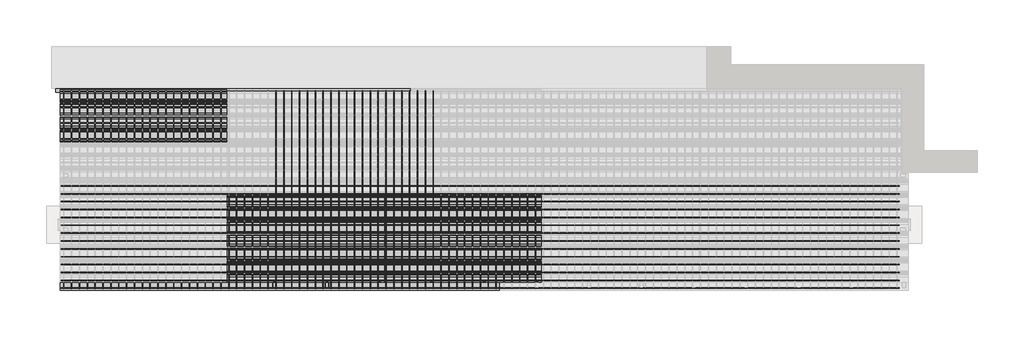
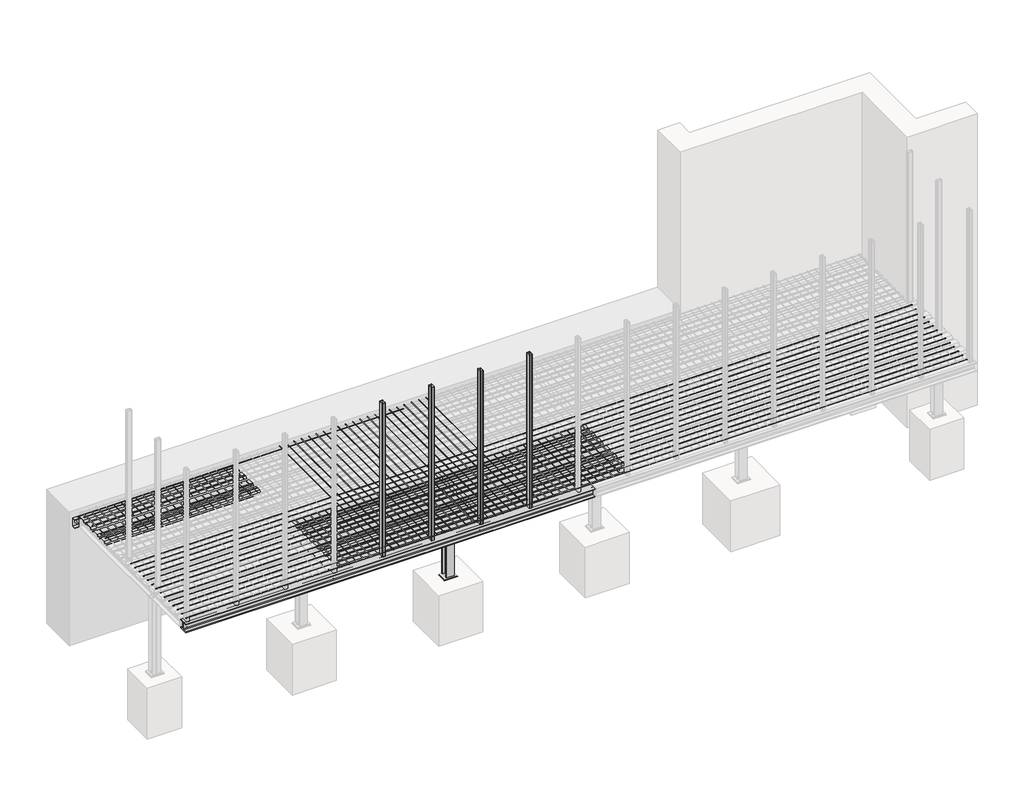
# One storey, part 2 of 36: 45 beams, 5 columns, 1 plate.
"""IFC4 building model written with IfcOpenShell, lengths in millimetres."""

import ifcopenshell
import ifcopenshell.guid

model = None  # the IFC model being written
_history = None  # IfcOwnerHistory: only IFC2X3 demands one
_inside = {}  # id of a spatial element -> (the spatial element, [elements in it])
_under = {}  # id of a project, library or spatial element -> (it, [spatial elements below it])
_declared = {}  # id of a project -> (the project, [libraries it declares])
_typed = {}  # id of a type object -> (the type object, [elements of that type])
_made_of = {}  # id of a material, layer set ... -> (it, [elements and type objects made of it])


def new_model(schema):
    """Start an empty IFC model of exactly this schema.

    Asked for "IFC4X3", IfcOpenShell would pick the latest addendum, in which some entities
    have other attributes; the version numbers below select the first issue.
    IFC2X3 requires an IfcOwnerHistory on every rooted entity: one is made here for all.
    """
    global model, _history
    if schema == "IFC4X3":
        model = ifcopenshell.file(schema_version=(4, 3, 0, 0))
    else:
        model = ifcopenshell.file(schema=schema)
    _inside.clear()
    _under.clear()
    _declared.clear()
    _typed.clear()
    _made_of.clear()
    _history = None
    if model.schema == "IFC2X3":
        org = make("IfcOrganization", Name="unknown")
        user = make(
            "IfcPersonAndOrganization",
            ThePerson=make("IfcPerson", FamilyName="unknown"),
            TheOrganization=org,
        )
        app = make(
            "IfcApplication",
            ApplicationDeveloper=org,
            Version="unknown",
            ApplicationFullName="unknown",
            ApplicationIdentifier="unknown",
        )
        _history = make(
            "IfcOwnerHistory",
            OwningUser=user,
            OwningApplication=app,
            ChangeAction="ADDED",
            CreationDate=0,
        )
    return model


def make(cls, **values):
    """One entity of the class cls with the attributes given. An attribute that is None is left unset."""
    return model.create_entity(
        cls, **{name: value for name, value in values.items() if value is not None}
    )


def rooted(cls, **values):
    """An entity with a GlobalId (a new one), such as an element, a storey or a relation."""
    return make(cls, GlobalId=ifcopenshell.guid.new(), OwnerHistory=_history, **values)


def si_unit(unit_type, name, prefix=None):
    """IfcSIUnit, for example si_unit("LENGTHUNIT", "METRE", prefix="MILLI")."""
    return make("IfcSIUnit", UnitType=unit_type, Prefix=prefix, Name=name)


def assignment(units):
    """IfcUnitAssignment: the units of a project."""
    return None if units is None else make("IfcUnitAssignment", Units=units)


def point(xyz):
    """IfcCartesianPoint."""
    return None if xyz is None else make("IfcCartesianPoint", Coordinates=xyz)


def direction(xyz):
    """IfcDirection."""
    return None if xyz is None else make("IfcDirection", DirectionRatios=xyz)


def frame(location, z_axis=None, x_axis=None):
    """IfcAxis2Placement3D, a coordinate frame: its origin and axes. An axis left out is left unset."""
    return make(
        "IfcAxis2Placement3D",
        Location=point(location),
        Axis=direction(z_axis),
        RefDirection=direction(x_axis),
    )


def frame_2d(location, x_axis=None):
    """IfcAxis2Placement2D, a coordinate frame in the plane: its origin and x axis."""
    return make(
        "IfcAxis2Placement2D", Location=point(location), RefDirection=direction(x_axis)
    )


def origin():
    """The frame at (0, 0, 0) with its axes left unset."""
    return frame((0.0, 0.0, 0.0))


def place(relative_to, where):
    """IfcLocalPlacement: puts the frame where relative to a parent placement (None: the world)."""
    return make(
        "IfcLocalPlacement", PlacementRelTo=relative_to, RelativePlacement=where
    )


def context(
    kind, dimensions, precision=None, world=None, true_north=None, identifier=None
):
    """IfcGeometricRepresentationContext, for example the 3D "Model" context."""
    return make(
        "IfcGeometricRepresentationContext",
        ContextIdentifier=identifier,
        ContextType=kind,
        CoordinateSpaceDimension=dimensions,
        Precision=precision,
        WorldCoordinateSystem=world,
        TrueNorth=true_north,
    )


def project(units=None, contexts=None):
    """IfcProject with its units and contexts."""
    return rooted(
        "IfcProject",
        Name="project",
        RepresentationContexts=contexts,
        UnitsInContext=assignment(units),
    )


def spatial(cls, under=None, at=None, **own):
    """A site, building, storey or space (cls), placed at a placement, below another one or the project."""
    s = rooted(cls, ObjectPlacement=at, **own)
    if under is not None:
        _under.setdefault(under.id(), (under, []))[1].append(s)
    return s


def polyline(points):
    """IfcPolyline through the points."""
    return make("IfcPolyline", Points=[point(p) for p in points])


def circle_curve(where, radius):
    """IfcCircle in the frame where."""
    return make("IfcCircle", Position=where, Radius=radius)


def trimmed(basis, trim1, trim2, sense, master):
    """IfcTrimmedCurve: the piece of a basis curve between two trims."""
    return make(
        "IfcTrimmedCurve",
        BasisCurve=basis,
        Trim1=trim1,
        Trim2=trim2,
        SenseAgreement=sense,
        MasterRepresentation=master,
    )


def segment(curve, same_sense, transition):
    """IfcCompositeCurveSegment."""
    return make(
        "IfcCompositeCurveSegment",
        Transition=transition,
        SameSense=same_sense,
        ParentCurve=curve,
    )


def composite_curve(segments, self_intersect=None):
    """IfcCompositeCurve: segments joined end to end."""
    return make("IfcCompositeCurve", Segments=segments, SelfIntersect=self_intersect)


def outline(outer, holes=None, kind="AREA"):
    """IfcArbitraryClosedProfileDef: a profile drawn as a closed curve; with holes, ...WithVoids."""
    if holes is None:
        return make("IfcArbitraryClosedProfileDef", ProfileType=kind, OuterCurve=outer)
    return make(
        "IfcArbitraryProfileDefWithVoids",
        ProfileType=kind,
        OuterCurve=outer,
        InnerCurves=holes,
    )


def extrude(swept, where, along, depth):
    """IfcExtrudedAreaSolid: the profile swept, set in the frame where, extruded along a direction by depth."""
    return make(
        "IfcExtrudedAreaSolid",
        SweptArea=swept,
        Position=where,
        ExtrudedDirection=direction(along),
        Depth=depth,
    )


def faces_of(points, faces, orient=None, outer=None):
    """IfcFace entities. A face is a list of loops; a loop is a list of indices into points, from 0.

    orient and outer hold one flag for each loop. By default every Orientation is true, the
    first loop of a face is its IfcFaceOuterBound and the others are IfcFaceBound.
    """
    made = []
    for i, loops in enumerate(faces):
        bounds = []
        for j, loop in enumerate(loops):
            is_outer = j == 0 if outer is None else outer[i][j]
            bounds.append(
                make(
                    "IfcFaceOuterBound" if is_outer else "IfcFaceBound",
                    Bound=make("IfcPolyLoop", Polygon=[points[k] for k in loop]),
                    Orientation=True if orient is None else orient[i][j],
                )
            )
        made.append(make("IfcFace", Bounds=bounds))
    return made


def faceted_brep(points, faces, orient=None, outer=None, voids=None):
    """IfcFacetedBrep: a solid bounded by flat faces; with voids (closed shells), ...WithVoids."""
    shared = [point(p) for p in points]
    hull = make("IfcClosedShell", CfsFaces=faces_of(shared, faces, orient, outer))
    if voids is None:
        return make("IfcFacetedBrep", Outer=hull)
    return make(
        "IfcFacetedBrepWithVoids",
        Outer=hull,
        Voids=[
            make(cls, CfsFaces=faces_of(shared, fs, o, b)) for cls, fs, o, b in voids
        ],
    )


def shape(context_of_items, identifier, shape_type, items):
    """IfcShapeRepresentation: the items that make up one representation, for example the "Body"."""
    return make(
        "IfcShapeRepresentation",
        ContextOfItems=context_of_items,
        RepresentationIdentifier=identifier,
        RepresentationType=shape_type,
        Items=items,
    )


def made_of(thing, what):
    """Note that an element or type object is made of a material, layer set ...; save() writes the relation."""
    if what is not None:
        _made_of.setdefault(what.id(), (what, []))[1].append(thing)
    return thing


def element(
    cls,
    number,
    at=None,
    inside=None,
    cuts=None,
    type_object=None,
    material=None,
    context=None,
    identifier="Body",
    shape_type=None,
    held_by="IfcProductDefinitionShape",
    body=None,
    shapes=None,
    **own,
):
    """One element of the class cls, such as IfcWall. Its Tag is "e" and its number.

    at: its placement. inside: the storey or other place that contains it. cuts: it is an
    opening in that element (IfcRelVoidsElement). A single representation is given by context,
    identifier, shape_type and body (its items); several are given by shapes. held_by: the class
    of the entity that holds the representations. save() writes the other relations.
    """
    e = rooted(cls, Tag="e%d" % number, ObjectPlacement=at, **own)
    if body is not None:
        shapes = [shape(context, identifier, shape_type, body)]
    if shapes is not None:
        e.Representation = make(held_by, Representations=shapes)
    if inside is not None:
        _inside.setdefault(inside.id(), (inside, []))[1].append(e)
    if cuts is not None:
        rooted(
            "IfcRelVoidsElement", RelatingBuildingElement=cuts, RelatedOpeningElement=e
        )
    if type_object is not None:
        _typed.setdefault(type_object.id(), (type_object, []))[1].append(e)
    return made_of(e, material)


def aggregate(whole, parts):
    """IfcRelAggregates: a whole, such as a stair, and the parts it consists of."""
    return rooted("IfcRelAggregates", RelatingObject=whole, RelatedObjects=parts)


def save(model, path):
    """Write the relations noted so far, then the file.

    IfcRelAggregates (storeys below a building ...), IfcRelContainedInSpatialStructure (elements
    in a storey), IfcRelDefinesByType, IfcRelAssociatesMaterial and IfcRelDeclares: one each for
    every whole, place, type object, material and project.
    """
    for whole, parts in _under.values():
        aggregate(whole, parts)
    for where, things in _inside.values():
        rooted(
            "IfcRelContainedInSpatialStructure",
            RelatedElements=things,
            RelatingStructure=where,
        )
    for kind, things in _typed.values():
        rooted("IfcRelDefinesByType", RelatedObjects=things, RelatingType=kind)
    for what, things in _made_of.values():
        rooted("IfcRelAssociatesMaterial", RelatedObjects=things, RelatingMaterial=what)
    for by, libraries in _declared.values():
        rooted("IfcRelDeclares", RelatingContext=by, RelatedDefinitions=libraries)
    model.write(path)


model = new_model("IFC4")

# Units and contexts
model_context = context("Model", 3, world=origin())
ifc_project = project(units=[si_unit("LENGTHUNIT", "METRE", prefix="MILLI")], contexts=[model_context])

# Site, building, storey
site = spatial("IfcSite", under=ifc_project)
building = spatial("IfcBuilding", under=site)
storey = spatial("IfcBuildingStorey", under=building, Name="Základy", Elevation=-1200.0)

# Beams
placement = place(None, origin())
element("IfcBeam", 1, ObjectType="D8", at=placement, inside=storey, context=model_context, shape_type="SweptSolid", body=[
    extrude(outline(composite_curve([segment(trimmed(circle_curve(frame_2d((1999.9975821, -57.0)), 4.0), [point((1995.9975821, -57.0))], [point((2003.9975821, -57.0))], False, "CARTESIAN"), True, "CONTINUOUS"), segment(trimmed(circle_curve(frame_2d((1999.9975821, -57.0)), 4.0), [point((2003.9975821, -57.0))], [point((1995.9975821, -57.0))], False, "CARTESIAN"), True, "CONTINUOUS")], self_intersect=False)), frame((-15.0, 0.0, 0.0), z_axis=(1.0, 0.0, 0.0), x_axis=(0.0, 1.0, 0.0)), (0.0, 0.0, 1.0), 15985.0),
])
element("IfcBeam", 2, ObjectType="D8", at=placement, inside=storey, context=model_context, shape_type="SweptSolid", body=[
    extrude(outline(composite_curve([segment(trimmed(circle_curve(frame_2d((1849.9975821, -57.0)), 4.0), [point((1845.9975821, -57.0))], [point((1853.9975821, -57.0))], False, "CARTESIAN"), True, "CONTINUOUS"), segment(trimmed(circle_curve(frame_2d((1849.9975821, -57.0)), 4.0), [point((1853.9975821, -57.0))], [point((1845.9975821, -57.0))], False, "CARTESIAN"), True, "CONTINUOUS")], self_intersect=False)), frame((-15.0, 0.0, 0.0), z_axis=(1.0, 0.0, 0.0), x_axis=(0.0, 1.0, 0.0)), (0.0, 0.0, 1.0), 15985.0),
])
element("IfcBeam", 3, ObjectType="D8", at=placement, inside=storey, context=model_context, shape_type="SweptSolid", body=[
    extrude(outline(composite_curve([segment(trimmed(circle_curve(frame_2d((1699.9975821, -57.0)), 4.0), [point((1695.9975821, -57.0))], [point((1703.9975821, -57.0))], False, "CARTESIAN"), True, "CONTINUOUS"), segment(trimmed(circle_curve(frame_2d((1699.9975821, -57.0)), 4.0), [point((1703.9975821, -57.0))], [point((1695.9975821, -57.0))], False, "CARTESIAN"), True, "CONTINUOUS")], self_intersect=False)), frame((-15.0, 0.0, 0.0), z_axis=(1.0, 0.0, 0.0), x_axis=(0.0, 1.0, 0.0)), (0.0, 0.0, 1.0), 15985.0),
])
element("IfcBeam", 4, ObjectType="D8", at=placement, inside=storey, context=model_context, shape_type="SweptSolid", body=[
    extrude(outline(composite_curve([segment(trimmed(circle_curve(frame_2d((1549.9975821, -57.0)), 4.0), [point((1545.9975821, -57.0))], [point((1553.9975821, -57.0))], False, "CARTESIAN"), True, "CONTINUOUS"), segment(trimmed(circle_curve(frame_2d((1549.9975821, -57.0)), 4.0), [point((1553.9975821, -57.0))], [point((1545.9975821, -57.0))], False, "CARTESIAN"), True, "CONTINUOUS")], self_intersect=False)), frame((-15.0, 0.0, 0.0), z_axis=(1.0, 0.0, 0.0), x_axis=(0.0, 1.0, 0.0)), (0.0, 0.0, 1.0), 15985.0),
])
element("IfcBeam", 5, ObjectType="D8", at=placement, inside=storey, context=model_context, shape_type="SweptSolid", body=[
    extrude(outline(composite_curve([segment(trimmed(circle_curve(frame_2d((1399.9975821, -57.0)), 4.0), [point((1395.9975821, -57.0))], [point((1403.9975821, -57.0))], False, "CARTESIAN"), True, "CONTINUOUS"), segment(trimmed(circle_curve(frame_2d((1399.9975821, -57.0)), 4.0), [point((1403.9975821, -57.0))], [point((1395.9975821, -57.0))], False, "CARTESIAN"), True, "CONTINUOUS")], self_intersect=False)), frame((-15.0, 0.0, 0.0), z_axis=(1.0, 0.0, 0.0), x_axis=(0.0, 1.0, 0.0)), (0.0, 0.0, 1.0), 15985.0),
])
element("IfcBeam", 6, ObjectType="D8", at=placement, inside=storey, context=model_context, shape_type="SweptSolid", body=[
    extrude(outline(composite_curve([segment(trimmed(circle_curve(frame_2d((1249.9975821, -57.0)), 4.0), [point((1245.9975821, -57.0))], [point((1253.9975821, -57.0))], False, "CARTESIAN"), True, "CONTINUOUS"), segment(trimmed(circle_curve(frame_2d((1249.9975821, -57.0)), 4.0), [point((1253.9975821, -57.0))], [point((1245.9975821, -57.0))], False, "CARTESIAN"), True, "CONTINUOUS")], self_intersect=False)), frame((-15.0, 0.0, 0.0), z_axis=(1.0, 0.0, 0.0), x_axis=(0.0, 1.0, 0.0)), (0.0, 0.0, 1.0), 15985.0),
])
element("IfcBeam", 7, ObjectType="D8", at=placement, inside=storey, context=model_context, shape_type="SweptSolid", body=[
    extrude(outline(composite_curve([segment(trimmed(circle_curve(frame_2d((1099.9975821, -57.0)), 4.0), [point((1095.9975821, -57.0))], [point((1103.9975821, -57.0))], False, "CARTESIAN"), True, "CONTINUOUS"), segment(trimmed(circle_curve(frame_2d((1099.9975821, -57.0)), 4.0), [point((1103.9975821, -57.0))], [point((1095.9975821, -57.0))], False, "CARTESIAN"), True, "CONTINUOUS")], self_intersect=False)), frame((-15.0, 0.0, 0.0), z_axis=(1.0, 0.0, 0.0), x_axis=(0.0, 1.0, 0.0)), (0.0, 0.0, 1.0), 15985.0),
])
element("IfcBeam", 8, ObjectType="D8", at=placement, inside=storey, context=model_context, shape_type="SweptSolid", body=[
    extrude(outline(composite_curve([segment(trimmed(circle_curve(frame_2d((949.9975821, -57.0)), 4.0), [point((945.9975821, -57.0))], [point((953.9975821, -57.0))], False, "CARTESIAN"), True, "CONTINUOUS"), segment(trimmed(circle_curve(frame_2d((949.9975821, -57.0)), 4.0), [point((953.9975821, -57.0))], [point((945.9975821, -57.0))], False, "CARTESIAN"), True, "CONTINUOUS")], self_intersect=False)), frame((-15.0, 0.0, 0.0), z_axis=(1.0, 0.0, 0.0), x_axis=(0.0, 1.0, 0.0)), (0.0, 0.0, 1.0), 15985.0),
])
element("IfcBeam", 9, ObjectType="D8", at=placement, inside=storey, context=model_context, shape_type="SweptSolid", body=[
    extrude(outline(composite_curve([segment(trimmed(circle_curve(frame_2d((799.9975821, -57.0)), 4.0), [point((795.9975821, -57.0))], [point((803.9975821, -57.0))], False, "CARTESIAN"), True, "CONTINUOUS"), segment(trimmed(circle_curve(frame_2d((799.9975821, -57.0)), 4.0), [point((803.9975821, -57.0))], [point((795.9975821, -57.0))], False, "CARTESIAN"), True, "CONTINUOUS")], self_intersect=False)), frame((-15.0, 0.0, 0.0), z_axis=(1.0, 0.0, 0.0), x_axis=(0.0, 1.0, 0.0)), (0.0, 0.0, 1.0), 15985.0),
])
element("IfcBeam", 10, ObjectType="D8", at=placement, inside=storey, context=model_context, shape_type="SweptSolid", body=[
    extrude(outline(composite_curve([segment(trimmed(circle_curve(frame_2d((649.9975821, -57.0)), 4.0), [point((645.9975821, -57.0))], [point((653.9975821, -57.0))], False, "CARTESIAN"), True, "CONTINUOUS"), segment(trimmed(circle_curve(frame_2d((649.9975821, -57.0)), 4.0), [point((653.9975821, -57.0))], [point((645.9975821, -57.0))], False, "CARTESIAN"), True, "CONTINUOUS")], self_intersect=False)), frame((-15.0, 0.0, 0.0), z_axis=(1.0, 0.0, 0.0), x_axis=(0.0, 1.0, 0.0)), (0.0, 0.0, 1.0), 15985.0),
])
element("IfcBeam", 11, ObjectType="D8", at=placement, inside=storey, context=model_context, shape_type="SweptSolid", body=[
    extrude(outline(composite_curve([segment(trimmed(circle_curve(frame_2d((499.9975821, -57.0)), 4.0), [point((495.9975821, -57.0))], [point((503.9975821, -57.0))], False, "CARTESIAN"), True, "CONTINUOUS"), segment(trimmed(circle_curve(frame_2d((499.9975821, -57.0)), 4.0), [point((503.9975821, -57.0))], [point((495.9975821, -57.0))], False, "CARTESIAN"), True, "CONTINUOUS")], self_intersect=False)), frame((-15.0, 0.0, 0.0), z_axis=(1.0, 0.0, 0.0), x_axis=(0.0, 1.0, 0.0)), (0.0, 0.0, 1.0), 15985.0),
])
element("IfcBeam", 12, ObjectType="D8", at=placement, inside=storey, context=model_context, shape_type="SweptSolid", body=[
    extrude(outline(composite_curve([segment(trimmed(circle_curve(frame_2d((349.9975821, -57.0)), 4.0), [point((345.9975821, -57.0))], [point((353.9975821, -57.0))], False, "CARTESIAN"), True, "CONTINUOUS"), segment(trimmed(circle_curve(frame_2d((349.9975821, -57.0)), 4.0), [point((353.9975821, -57.0))], [point((345.9975821, -57.0))], False, "CARTESIAN"), True, "CONTINUOUS")], self_intersect=False)), frame((-15.0, 0.0, 0.0), z_axis=(1.0, 0.0, 0.0), x_axis=(0.0, 1.0, 0.0)), (0.0, 0.0, 1.0), 15985.0),
])
element("IfcBeam", 13, ObjectType="D8", at=placement, inside=storey, context=model_context, shape_type="SweptSolid", body=[
    extrude(outline(composite_curve([segment(trimmed(circle_curve(frame_2d((199.9975821, -57.0)), 4.0), [point((195.9975821, -57.0))], [point((203.9975821, -57.0))], False, "CARTESIAN"), True, "CONTINUOUS"), segment(trimmed(circle_curve(frame_2d((199.9975821, -57.0)), 4.0), [point((203.9975821, -57.0))], [point((195.9975821, -57.0))], False, "CARTESIAN"), True, "CONTINUOUS")], self_intersect=False)), frame((-15.0, 0.0, 0.0), z_axis=(1.0, 0.0, 0.0), x_axis=(0.0, 1.0, 0.0)), (0.0, 0.0, 1.0), 15985.0),
])
element("IfcBeam", 14, ObjectType="D8", at=placement, inside=storey, context=model_context, shape_type="SweptSolid", body=[
    extrude(outline(composite_curve([segment(trimmed(circle_curve(frame_2d((49.9975821, -57.0)), 4.0), [point((45.9975821, -57.0))], [point((53.9975821, -57.0))], False, "CARTESIAN"), True, "CONTINUOUS"), segment(trimmed(circle_curve(frame_2d((49.9975821, -57.0)), 4.0), [point((53.9975821, -57.0))], [point((45.9975821, -57.0))], False, "CARTESIAN"), True, "CONTINUOUS")], self_intersect=False)), frame((-15.0, 0.0, 0.0), z_axis=(1.0, 0.0, 0.0), x_axis=(0.0, 1.0, 0.0)), (0.0, 0.0, 1.0), 15985.0),
])
element("IfcBeam", 15, ObjectType="D8", at=placement, inside=storey, context=model_context, shape_type="SweptSolid", body=[
    extrude(outline(composite_curve([segment(trimmed(circle_curve(frame_2d((-49.0, 4077.5)), 4.0), [point((-49.0, 4073.5))], [point((-49.0, 4081.5))], False, "CARTESIAN"), True, "CONTINUOUS"), segment(trimmed(circle_curve(frame_2d((-49.0, 4077.5)), 4.0), [point((-49.0, 4081.5))], [point((-49.0, 4073.5))], False, "CARTESIAN"), True, "CONTINUOUS")], self_intersect=False)), frame((0.0, 35.0, 0.0), z_axis=(0.0, 1.0, 0.0), x_axis=(0.0, 0.0, 1.0)), (0.0, 0.0, 1.0), 3780.0),
])
element("IfcBeam", 16, ObjectType="D8", at=placement, inside=storey, context=model_context, shape_type="SweptSolid", body=[
    extrude(outline(composite_curve([segment(trimmed(circle_curve(frame_2d((-49.0, 4227.5)), 4.0), [point((-49.0, 4223.5))], [point((-49.0, 4231.5))], False, "CARTESIAN"), True, "CONTINUOUS"), segment(trimmed(circle_curve(frame_2d((-49.0, 4227.5)), 4.0), [point((-49.0, 4231.5))], [point((-49.0, 4223.5))], False, "CARTESIAN"), True, "CONTINUOUS")], self_intersect=False)), frame((0.0, 35.0, 0.0), z_axis=(0.0, 1.0, 0.0), x_axis=(0.0, 0.0, 1.0)), (0.0, 0.0, 1.0), 3780.0),
])
element("IfcBeam", 17, ObjectType="D8", at=placement, inside=storey, context=model_context, shape_type="SweptSolid", body=[
    extrude(outline(composite_curve([segment(trimmed(circle_curve(frame_2d((-49.0, 4377.5)), 4.0), [point((-49.0, 4373.5))], [point((-49.0, 4381.5))], False, "CARTESIAN"), True, "CONTINUOUS"), segment(trimmed(circle_curve(frame_2d((-49.0, 4377.5)), 4.0), [point((-49.0, 4381.5))], [point((-49.0, 4373.5))], False, "CARTESIAN"), True, "CONTINUOUS")], self_intersect=False)), frame((0.0, 35.0, 0.0), z_axis=(0.0, 1.0, 0.0), x_axis=(0.0, 0.0, 1.0)), (0.0, 0.0, 1.0), 3780.0),
])
element("IfcBeam", 18, ObjectType="D8", at=placement, inside=storey, context=model_context, shape_type="SweptSolid", body=[
    extrude(outline(composite_curve([segment(trimmed(circle_curve(frame_2d((-49.0, 4527.5)), 4.0), [point((-49.0, 4523.5))], [point((-49.0, 4531.5))], False, "CARTESIAN"), True, "CONTINUOUS"), segment(trimmed(circle_curve(frame_2d((-49.0, 4527.5)), 4.0), [point((-49.0, 4531.5))], [point((-49.0, 4523.5))], False, "CARTESIAN"), True, "CONTINUOUS")], self_intersect=False)), frame((0.0, 35.0, 0.0), z_axis=(0.0, 1.0, 0.0), x_axis=(0.0, 0.0, 1.0)), (0.0, 0.0, 1.0), 3780.0),
])
element("IfcBeam", 19, ObjectType="D8", at=placement, inside=storey, context=model_context, shape_type="SweptSolid", body=[
    extrude(outline(composite_curve([segment(trimmed(circle_curve(frame_2d((-49.0, 4677.5)), 4.0), [point((-49.0, 4673.5))], [point((-49.0, 4681.5))], False, "CARTESIAN"), True, "CONTINUOUS"), segment(trimmed(circle_curve(frame_2d((-49.0, 4677.5)), 4.0), [point((-49.0, 4681.5))], [point((-49.0, 4673.5))], False, "CARTESIAN"), True, "CONTINUOUS")], self_intersect=False)), frame((0.0, 35.0, 0.0), z_axis=(0.0, 1.0, 0.0), x_axis=(0.0, 0.0, 1.0)), (0.0, 0.0, 1.0), 3780.0),
])
element("IfcBeam", 20, ObjectType="D8", at=placement, inside=storey, context=model_context, shape_type="SweptSolid", body=[
    extrude(outline(composite_curve([segment(trimmed(circle_curve(frame_2d((-49.0, 4827.5)), 4.0), [point((-49.0, 4823.5))], [point((-49.0, 4831.5))], False, "CARTESIAN"), True, "CONTINUOUS"), segment(trimmed(circle_curve(frame_2d((-49.0, 4827.5)), 4.0), [point((-49.0, 4831.5))], [point((-49.0, 4823.5))], False, "CARTESIAN"), True, "CONTINUOUS")], self_intersect=False)), frame((0.0, 35.0, 0.0), z_axis=(0.0, 1.0, 0.0), x_axis=(0.0, 0.0, 1.0)), (0.0, 0.0, 1.0), 3780.0),
])
element("IfcBeam", 21, ObjectType="D8", at=placement, inside=storey, context=model_context, shape_type="SweptSolid", body=[
    extrude(outline(composite_curve([segment(trimmed(circle_curve(frame_2d((-49.0, 4977.5)), 4.0), [point((-49.0, 4973.5))], [point((-49.0, 4981.5))], False, "CARTESIAN"), True, "CONTINUOUS"), segment(trimmed(circle_curve(frame_2d((-49.0, 4977.5)), 4.0), [point((-49.0, 4981.5))], [point((-49.0, 4973.5))], False, "CARTESIAN"), True, "CONTINUOUS")], self_intersect=False)), frame((0.0, 35.0, 0.0), z_axis=(0.0, 1.0, 0.0), x_axis=(0.0, 0.0, 1.0)), (0.0, 0.0, 1.0), 3780.0),
])
element("IfcBeam", 22, ObjectType="D8", at=placement, inside=storey, context=model_context, shape_type="SweptSolid", body=[
    extrude(outline(composite_curve([segment(trimmed(circle_curve(frame_2d((-49.0, 5127.5)), 4.0), [point((-49.0, 5123.5))], [point((-49.0, 5131.5))], False, "CARTESIAN"), True, "CONTINUOUS"), segment(trimmed(circle_curve(frame_2d((-49.0, 5127.5)), 4.0), [point((-49.0, 5131.5))], [point((-49.0, 5123.5))], False, "CARTESIAN"), True, "CONTINUOUS")], self_intersect=False)), frame((0.0, 35.0, 0.0), z_axis=(0.0, 1.0, 0.0), x_axis=(0.0, 0.0, 1.0)), (0.0, 0.0, 1.0), 3780.0),
])
element("IfcBeam", 23, ObjectType="D8", at=placement, inside=storey, context=model_context, shape_type="SweptSolid", body=[
    extrude(outline(composite_curve([segment(trimmed(circle_curve(frame_2d((-49.0, 5277.5)), 4.0), [point((-49.0, 5273.5))], [point((-49.0, 5281.5))], False, "CARTESIAN"), True, "CONTINUOUS"), segment(trimmed(circle_curve(frame_2d((-49.0, 5277.5)), 4.0), [point((-49.0, 5281.5))], [point((-49.0, 5273.5))], False, "CARTESIAN"), True, "CONTINUOUS")], self_intersect=False)), frame((0.0, 35.0, 0.0), z_axis=(0.0, 1.0, 0.0), x_axis=(0.0, 0.0, 1.0)), (0.0, 0.0, 1.0), 3780.0),
])
element("IfcBeam", 24, ObjectType="D8", at=placement, inside=storey, context=model_context, shape_type="SweptSolid", body=[
    extrude(outline(composite_curve([segment(trimmed(circle_curve(frame_2d((-49.0, 5427.5)), 4.0), [point((-49.0, 5423.5))], [point((-49.0, 5431.5))], False, "CARTESIAN"), True, "CONTINUOUS"), segment(trimmed(circle_curve(frame_2d((-49.0, 5427.5)), 4.0), [point((-49.0, 5431.5))], [point((-49.0, 5423.5))], False, "CARTESIAN"), True, "CONTINUOUS")], self_intersect=False)), frame((0.0, 35.0, 0.0), z_axis=(0.0, 1.0, 0.0), x_axis=(0.0, 0.0, 1.0)), (0.0, 0.0, 1.0), 3780.0),
])
element("IfcBeam", 25, ObjectType="D8", at=placement, inside=storey, context=model_context, shape_type="SweptSolid", body=[
    extrude(outline(composite_curve([segment(trimmed(circle_curve(frame_2d((-49.0, 5577.5)), 4.0), [point((-49.0, 5573.5))], [point((-49.0, 5581.5))], False, "CARTESIAN"), True, "CONTINUOUS"), segment(trimmed(circle_curve(frame_2d((-49.0, 5577.5)), 4.0), [point((-49.0, 5581.5))], [point((-49.0, 5573.5))], False, "CARTESIAN"), True, "CONTINUOUS")], self_intersect=False)), frame((0.0, 35.0, 0.0), z_axis=(0.0, 1.0, 0.0), x_axis=(0.0, 0.0, 1.0)), (0.0, 0.0, 1.0), 3780.0),
])
element("IfcBeam", 26, ObjectType="D8", at=placement, inside=storey, context=model_context, shape_type="SweptSolid", body=[
    extrude(outline(composite_curve([segment(trimmed(circle_curve(frame_2d((-49.0, 5727.5)), 4.0), [point((-49.0, 5723.5))], [point((-49.0, 5731.5))], False, "CARTESIAN"), True, "CONTINUOUS"), segment(trimmed(circle_curve(frame_2d((-49.0, 5727.5)), 4.0), [point((-49.0, 5731.5))], [point((-49.0, 5723.5))], False, "CARTESIAN"), True, "CONTINUOUS")], self_intersect=False)), frame((0.0, 35.0, 0.0), z_axis=(0.0, 1.0, 0.0), x_axis=(0.0, 0.0, 1.0)), (0.0, 0.0, 1.0), 3780.0),
])
element("IfcBeam", 27, ObjectType="D8", at=placement, inside=storey, context=model_context, shape_type="SweptSolid", body=[
    extrude(outline(composite_curve([segment(trimmed(circle_curve(frame_2d((-49.0, 5877.5)), 4.0), [point((-49.0, 5873.5))], [point((-49.0, 5881.5))], False, "CARTESIAN"), True, "CONTINUOUS"), segment(trimmed(circle_curve(frame_2d((-49.0, 5877.5)), 4.0), [point((-49.0, 5881.5))], [point((-49.0, 5873.5))], False, "CARTESIAN"), True, "CONTINUOUS")], self_intersect=False)), frame((0.0, 35.0, 0.0), z_axis=(0.0, 1.0, 0.0), x_axis=(0.0, 0.0, 1.0)), (0.0, 0.0, 1.0), 3780.0),
])
element("IfcBeam", 28, ObjectType="D8", at=placement, inside=storey, context=model_context, shape_type="SweptSolid", body=[
    extrude(outline(composite_curve([segment(trimmed(circle_curve(frame_2d((-49.0, 6027.5)), 4.0), [point((-49.0, 6023.5))], [point((-49.0, 6031.5))], False, "CARTESIAN"), True, "CONTINUOUS"), segment(trimmed(circle_curve(frame_2d((-49.0, 6027.5)), 4.0), [point((-49.0, 6031.5))], [point((-49.0, 6023.5))], False, "CARTESIAN"), True, "CONTINUOUS")], self_intersect=False)), frame((0.0, 35.0, 0.0), z_axis=(0.0, 1.0, 0.0), x_axis=(0.0, 0.0, 1.0)), (0.0, 0.0, 1.0), 3780.0),
])
element("IfcBeam", 29, ObjectType="D8", at=placement, inside=storey, context=model_context, shape_type="SweptSolid", body=[
    extrude(outline(composite_curve([segment(trimmed(circle_curve(frame_2d((-49.0, 6177.5)), 4.0), [point((-49.0, 6173.5))], [point((-49.0, 6181.5))], False, "CARTESIAN"), True, "CONTINUOUS"), segment(trimmed(circle_curve(frame_2d((-49.0, 6177.5)), 4.0), [point((-49.0, 6181.5))], [point((-49.0, 6173.5))], False, "CARTESIAN"), True, "CONTINUOUS")], self_intersect=False)), frame((0.0, 35.0, 0.0), z_axis=(0.0, 1.0, 0.0), x_axis=(0.0, 0.0, 1.0)), (0.0, 0.0, 1.0), 3780.0),
])
element("IfcBeam", 30, ObjectType="D8", at=placement, inside=storey, context=model_context, shape_type="SweptSolid", body=[
    extrude(outline(composite_curve([segment(trimmed(circle_curve(frame_2d((-49.0, 6327.5)), 4.0), [point((-49.0, 6323.5))], [point((-49.0, 6331.5))], False, "CARTESIAN"), True, "CONTINUOUS"), segment(trimmed(circle_curve(frame_2d((-49.0, 6327.5)), 4.0), [point((-49.0, 6331.5))], [point((-49.0, 6323.5))], False, "CARTESIAN"), True, "CONTINUOUS")], self_intersect=False)), frame((0.0, 35.0, 0.0), z_axis=(0.0, 1.0, 0.0), x_axis=(0.0, 0.0, 1.0)), (0.0, 0.0, 1.0), 3780.0),
])
element("IfcBeam", 31, ObjectType="D8", at=placement, inside=storey, context=model_context, shape_type="SweptSolid", body=[
    extrude(outline(composite_curve([segment(trimmed(circle_curve(frame_2d((-49.0, 6477.5)), 4.0), [point((-49.0, 6473.5))], [point((-49.0, 6481.5))], False, "CARTESIAN"), True, "CONTINUOUS"), segment(trimmed(circle_curve(frame_2d((-49.0, 6477.5)), 4.0), [point((-49.0, 6481.5))], [point((-49.0, 6473.5))], False, "CARTESIAN"), True, "CONTINUOUS")], self_intersect=False)), frame((0.0, 35.0, 0.0), z_axis=(0.0, 1.0, 0.0), x_axis=(0.0, 0.0, 1.0)), (0.0, 0.0, 1.0), 3780.0),
])
element("IfcBeam", 32, ObjectType="D8", at=placement, inside=storey, context=model_context, shape_type="SweptSolid", body=[
    extrude(outline(composite_curve([segment(trimmed(circle_curve(frame_2d((-49.0, 6627.5)), 4.0), [point((-49.0, 6623.5))], [point((-49.0, 6631.5))], False, "CARTESIAN"), True, "CONTINUOUS"), segment(trimmed(circle_curve(frame_2d((-49.0, 6627.5)), 4.0), [point((-49.0, 6631.5))], [point((-49.0, 6623.5))], False, "CARTESIAN"), True, "CONTINUOUS")], self_intersect=False)), frame((0.0, 35.0, 0.0), z_axis=(0.0, 1.0, 0.0), x_axis=(0.0, 0.0, 1.0)), (0.0, 0.0, 1.0), 3780.0),
])
element("IfcBeam", 33, ObjectType="D8", at=placement, inside=storey, context=model_context, shape_type="SweptSolid", body=[
    extrude(outline(composite_curve([segment(trimmed(circle_curve(frame_2d((-49.0, 6777.5)), 4.0), [point((-49.0, 6773.5))], [point((-49.0, 6781.5))], False, "CARTESIAN"), True, "CONTINUOUS"), segment(trimmed(circle_curve(frame_2d((-49.0, 6777.5)), 4.0), [point((-49.0, 6781.5))], [point((-49.0, 6773.5))], False, "CARTESIAN"), True, "CONTINUOUS")], self_intersect=False)), frame((0.0, 35.0, 0.0), z_axis=(0.0, 1.0, 0.0), x_axis=(0.0, 0.0, 1.0)), (0.0, 0.0, 1.0), 3780.0),
])
element("IfcBeam", 34, ObjectType="D8", at=placement, inside=storey, context=model_context, shape_type="SweptSolid", body=[
    extrude(outline(composite_curve([segment(trimmed(circle_curve(frame_2d((-49.0, 6927.5)), 4.0), [point((-49.0, 6923.5))], [point((-49.0, 6931.5))], False, "CARTESIAN"), True, "CONTINUOUS"), segment(trimmed(circle_curve(frame_2d((-49.0, 6927.5)), 4.0), [point((-49.0, 6931.5))], [point((-49.0, 6923.5))], False, "CARTESIAN"), True, "CONTINUOUS")], self_intersect=False)), frame((0.0, 35.0, 0.0), z_axis=(0.0, 1.0, 0.0), x_axis=(0.0, 0.0, 1.0)), (0.0, 0.0, 1.0), 3780.0),
])
element("IfcBeam", 35, ObjectType="D8", at=placement, inside=storey, context=model_context, shape_type="SweptSolid", body=[
    extrude(outline(composite_curve([segment(trimmed(circle_curve(frame_2d((-49.0, 7077.5)), 4.0), [point((-49.0, 7073.5))], [point((-49.0, 7081.5))], False, "CARTESIAN"), True, "CONTINUOUS"), segment(trimmed(circle_curve(frame_2d((-49.0, 7077.5)), 4.0), [point((-49.0, 7081.5))], [point((-49.0, 7073.5))], False, "CARTESIAN"), True, "CONTINUOUS")], self_intersect=False)), frame((0.0, 35.0, 0.0), z_axis=(0.0, 1.0, 0.0), x_axis=(0.0, 0.0, 1.0)), (0.0, 0.0, 1.0), 3780.0),
])
element("IfcBeam", 36, ObjectType="HEA120", at=placement, inside=storey, context=model_context, shape_type="SweptSolid", body=[
    extrude(outline(composite_curve([segment(polyline([(1200.0, -193.0), (1320.0, -193.0), (1320.0, -201.0), (1274.5, -201.0)]), True, "CONTINUOUS"), segment(trimmed(circle_curve(frame_2d((1274.5, -213.0)), 12.0), [point((1274.5, -201.0))], [point((1262.5, -213.0))], True, "CARTESIAN"), True, "CONTINUOUS"), segment(polyline([(1262.5, -213.0), (1262.5, -287.0)]), True, "CONTINUOUS"), segment(trimmed(circle_curve(frame_2d((1274.5, -287.0)), 12.0), [point((1262.5, -287.0))], [point((1274.5, -299.0))], True, "CARTESIAN"), True, "CONTINUOUS"), segment(polyline([(1274.5, -299.0), (1320.0, -299.0), (1320.0, -307.0), (1200.0, -307.0), (1200.0, -299.0), (1245.5, -299.0)]), True, "CONTINUOUS"), segment(trimmed(circle_curve(frame_2d((1245.5, -287.0)), 12.0), [point((1245.5, -299.0))], [point((1257.5, -287.0))], True, "CARTESIAN"), True, "CONTINUOUS"), segment(polyline([(1257.5, -287.0), (1257.5, -213.0)]), True, "CONTINUOUS"), segment(trimmed(circle_curve(frame_2d((1245.5, -213.0)), 12.0), [point((1257.5, -213.0))], [point((1245.5, -201.0))], True, "CARTESIAN"), True, "CONTINUOUS"), segment(polyline([(1245.5, -201.0), (1200.0, -201.0), (1200.0, -193.0)]), True, "CONTINUOUS")], self_intersect=False)), frame((3160.0, 0.0, 0.0), z_axis=(1.0, 0.0, 0.0), x_axis=(0.0, 1.0, 0.0)), (0.0, 0.0, 1.0), 2780.0),
])
element("IfcBeam", 37, ObjectType="HEA120", at=placement, inside=storey, context=model_context, shape_type="SweptSolid", body=[
    extrude(outline(composite_curve([segment(polyline([(1200.0, -193.0), (1320.0, -193.0), (1320.0, -201.0), (1274.5, -201.0)]), True, "CONTINUOUS"), segment(trimmed(circle_curve(frame_2d((1274.5, -213.0)), 12.0), [point((1274.5, -201.0))], [point((1262.5, -213.0))], True, "CARTESIAN"), True, "CONTINUOUS"), segment(polyline([(1262.5, -213.0), (1262.5, -287.0)]), True, "CONTINUOUS"), segment(trimmed(circle_curve(frame_2d((1274.5, -287.0)), 12.0), [point((1262.5, -287.0))], [point((1274.5, -299.0))], True, "CARTESIAN"), True, "CONTINUOUS"), segment(polyline([(1274.5, -299.0), (1320.0, -299.0), (1320.0, -307.0), (1200.0, -307.0), (1200.0, -299.0), (1245.5, -299.0)]), True, "CONTINUOUS"), segment(trimmed(circle_curve(frame_2d((1245.5, -287.0)), 12.0), [point((1245.5, -299.0))], [point((1257.5, -287.0))], True, "CARTESIAN"), True, "CONTINUOUS"), segment(polyline([(1257.5, -287.0), (1257.5, -213.0)]), True, "CONTINUOUS"), segment(trimmed(circle_curve(frame_2d((1245.5, -213.0)), 12.0), [point((1257.5, -213.0))], [point((1245.5, -201.0))], True, "CARTESIAN"), True, "CONTINUOUS"), segment(polyline([(1245.5, -201.0), (1200.0, -201.0), (1200.0, -193.0)]), True, "CONTINUOUS")], self_intersect=False)), frame((6160.0, 0.0, 0.0), z_axis=(1.0, 0.0, 0.0), x_axis=(0.0, 1.0, 0.0)), (0.0, 0.0, 1.0), 2780.0),
])
element("IfcBeam", 38, ObjectType="HEB180", at=placement, inside=storey, context=model_context, shape_type="SweptSolid", body=[
    extrude(outline(composite_curve([segment(polyline([(-340.0, 6140.0), (-326.0, 6140.0), (-326.0, 6069.25)]), True, "CONTINUOUS"), segment(trimmed(circle_curve(frame_2d((-311.0, 6069.25)), 15.0), [point((-326.0, 6069.25))], [point((-311.0, 6054.25))], True, "CARTESIAN"), True, "CONTINUOUS"), segment(polyline([(-311.0, 6054.25), (-189.0, 6054.25)]), True, "CONTINUOUS"), segment(trimmed(circle_curve(frame_2d((-189.0, 6069.25)), 15.0), [point((-189.0, 6054.25))], [point((-174.0, 6069.25))], True, "CARTESIAN"), True, "CONTINUOUS"), segment(polyline([(-174.0, 6069.25), (-174.0, 6140.0), (-160.0, 6140.0), (-160.0, 5960.0), (-174.0, 5960.0), (-174.0, 6030.75)]), True, "CONTINUOUS"), segment(trimmed(circle_curve(frame_2d((-189.0, 6030.75)), 15.0), [point((-174.0, 6030.75))], [point((-189.0, 6045.75))], True, "CARTESIAN"), True, "CONTINUOUS"), segment(polyline([(-189.0, 6045.75), (-311.0, 6045.75)]), True, "CONTINUOUS"), segment(trimmed(circle_curve(frame_2d((-311.0, 6030.75)), 15.0), [point((-311.0, 6045.75))], [point((-326.0, 6030.75))], True, "CARTESIAN"), True, "CONTINUOUS"), segment(polyline([(-326.0, 6030.75), (-326.0, 5960.0), (-340.0, 5960.0), (-340.0, 6140.0)]), True, "CONTINUOUS")], self_intersect=False)), frame((0.0, 210.0, 0.0), z_axis=(0.0, 1.0, 0.0), x_axis=(0.0, 0.0, 1.0)), (0.0, 0.0, 1.0), 3557.0),
])
element("IfcBeam", 39, ObjectType="HEB180", at=placement, inside=storey, context=model_context, shape_type="SweptSolid", body=[
    extrude(outline(composite_curve([segment(polyline([(10.0, -160.0), (190.0, -160.0), (190.0, -174.0), (119.25, -174.0)]), True, "CONTINUOUS"), segment(trimmed(circle_curve(frame_2d((119.25, -189.0)), 15.0), [point((119.25, -174.0))], [point((104.25, -189.0))], True, "CARTESIAN"), True, "CONTINUOUS"), segment(polyline([(104.25, -189.0), (104.25, -311.0)]), True, "CONTINUOUS"), segment(trimmed(circle_curve(frame_2d((119.25, -311.0)), 15.0), [point((104.25, -311.0))], [point((119.25, -326.0))], True, "CARTESIAN"), True, "CONTINUOUS"), segment(polyline([(119.25, -326.0), (190.0, -326.0), (190.0, -340.0), (10.0, -340.0), (10.0, -326.0), (80.75, -326.0)]), True, "CONTINUOUS"), segment(trimmed(circle_curve(frame_2d((80.75, -311.0)), 15.0), [point((80.75, -326.0))], [point((95.75, -311.0))], True, "CARTESIAN"), True, "CONTINUOUS"), segment(polyline([(95.75, -311.0), (95.75, -189.0)]), True, "CONTINUOUS"), segment(trimmed(circle_curve(frame_2d((80.75, -189.0)), 15.0), [point((95.75, -189.0))], [point((80.75, -174.0))], True, "CARTESIAN"), True, "CONTINUOUS"), segment(polyline([(80.75, -174.0), (10.0, -174.0), (10.0, -160.0)]), True, "CONTINUOUS")], self_intersect=False)), frame((-40.0, 0.0, 0.0), z_axis=(1.0, 0.0, 0.0), x_axis=(0.0, 1.0, 0.0)), (0.0, 0.0, 1.0), 8380.0),
])
element("IfcBeam", 40, ObjectType="TR50/250", at=placement, inside=storey, context=model_context, shape_type="SweptSolid", body=[
    extrude(outline(polyline([(3802.7875602, -160.0099992), (3772.2875602, -111.5000008), (3637.6975638, -111.5000008), (3607.1975638, -160.0000008), (3552.7875754, -160.0000008), (3522.2875754, -111.5000008), (3387.6975715, -111.5000008), (3357.1975715, -160.0000008), (3302.7875697, -160.0000008), (3272.2875716, -111.5000008), (3137.6975638, -111.5000008), (3107.1975638, -160.0000008), (3052.7875602, -160.0000008), (3022.2875602, -111.5000008), (2887.6975638, -111.5000008), (2857.1975638, -160.0000008), (2802.7875602, -160.0000008), (2790.7375724, -139.4300002), (2803.1975638, -159.2500008), (2856.7875602, -159.2500008), (2887.2875602, -110.7500008), (3022.6975638, -110.7500008), (3053.1975638, -159.2500008), (3106.7875754, -159.2500008), (3137.2875754, -110.7500008), (3272.6975715, -110.7500008), (3303.1975695, -159.2500008), (3356.7875716, -159.2500008), (3387.2875678, -110.7500008), (3522.6975638, -110.7500008), (3553.1975638, -159.2500008), (3606.7875602, -159.2500008), (3637.2875602, -110.7500008), (3772.6975638, -110.7500008), (3803.1975638, -159.2500008), (3839.9975821, -160.0000008), (3802.7875602, -160.0099992)])), frame((-40.0, 0.0, 0.0), z_axis=(1.0, 0.0, 0.0), x_axis=(0.0, 1.0, 0.0)), (0.0, 0.0, 1.0), 3180.0),
])
element("IfcBeam", 41, ObjectType="TR50/250", at=placement, inside=storey, context=model_context, shape_type="SweptSolid", body=[
    extrude(outline(polyline([(1802.7875602, -160.0099992), (1772.2875602, -111.5000008), (1637.6975638, -111.5000008), (1607.1975638, -160.0000008), (1552.7875754, -160.0000008), (1522.2875754, -111.5000008), (1387.6975715, -111.5000008), (1357.1975715, -160.0000008), (1302.7875697, -160.0000008), (1272.2875716, -111.5000008), (1137.6975638, -111.5000008), (1107.1975638, -160.0000008), (1052.7875602, -160.0000008), (1022.2875602, -111.5000008), (887.6975638, -111.5000008), (857.1975638, -160.0000008), (802.7875602, -160.0000008), (790.7375724, -139.4300002), (803.1975638, -159.2500008), (856.7875602, -159.2500008), (887.2875602, -110.7500008), (1022.6975638, -110.7500008), (1053.1975638, -159.2500008), (1106.7875754, -159.2500008), (1137.2875754, -110.7500008), (1272.6975715, -110.7500008), (1303.1975695, -159.2500008), (1356.7875716, -159.2500008), (1387.2875678, -110.7500008), (1522.6975638, -110.7500008), (1553.1975638, -159.2500008), (1606.7875602, -159.2500008), (1637.2875602, -110.7500008), (1772.6975638, -110.7500008), (1803.1975638, -159.2500008), (1839.9975821, -160.0000008), (1802.7875602, -160.0099992)])), frame((2960.0, 0.0, 0.0), z_axis=(1.0, 0.0, 0.0), x_axis=(0.0, 1.0, 0.0)), (0.0, 0.0, 1.0), 3180.0),
])
element("IfcBeam", 42, ObjectType="TR50/250", at=placement, inside=storey, context=model_context, shape_type="SweptSolid", body=[
    extrude(outline(polyline([(802.7875602, -160.0099992), (772.2875602, -111.5000008), (637.6975638, -111.5000008), (607.1975638, -160.0000008), (552.7875754, -160.0000008), (522.2875754, -111.5000008), (387.6975715, -111.5000008), (357.1975715, -160.0000008), (302.7875697, -160.0000008), (272.2875716, -111.5000008), (160.0, -111.5000008), (160.0, -110.7500008), (272.6975715, -110.7500008), (303.1975695, -159.2500008), (356.7875716, -159.2500008), (387.2875678, -110.7500008), (522.6975638, -110.7500008), (553.1975638, -159.2500008), (606.7875602, -159.2500008), (637.2875602, -110.7500008), (772.6975638, -110.7500008), (803.1975638, -159.2500008), (839.9975821, -160.0000008), (802.7875602, -160.0099992)])), frame((2960.0, 0.0, 0.0), z_axis=(1.0, 0.0, 0.0), x_axis=(0.0, 1.0, 0.0)), (0.0, 0.0, 1.0), 3180.0),
])
element("IfcBeam", 43, ObjectType="TR50/250", at=placement, inside=storey, context=model_context, shape_type="SweptSolid", body=[
    extrude(outline(polyline([(1802.7875602, -160.0099992), (1772.2875602, -111.5000008), (1637.6975638, -111.5000008), (1607.1975638, -160.0000008), (1552.7875754, -160.0000008), (1522.2875754, -111.5000008), (1387.6975715, -111.5000008), (1357.1975715, -160.0000008), (1302.7875697, -160.0000008), (1272.2875716, -111.5000008), (1137.6975638, -111.5000008), (1107.1975638, -160.0000008), (1052.7875602, -160.0000008), (1022.2875602, -111.5000008), (887.6975638, -111.5000008), (857.1975638, -160.0000008), (802.7875602, -160.0000008), (790.7375724, -139.4300002), (803.1975638, -159.2500008), (856.7875602, -159.2500008), (887.2875602, -110.7500008), (1022.6975638, -110.7500008), (1053.1975638, -159.2500008), (1106.7875754, -159.2500008), (1137.2875754, -110.7500008), (1272.6975715, -110.7500008), (1303.1975695, -159.2500008), (1356.7875716, -159.2500008), (1387.2875678, -110.7500008), (1522.6975638, -110.7500008), (1553.1975638, -159.2500008), (1606.7875602, -159.2500008), (1637.2875602, -110.7500008), (1772.6975638, -110.7500008), (1803.1975638, -159.2500008), (1839.9975821, -160.0000008), (1802.7875602, -160.0099992)])), frame((5960.0, 0.0, 0.0), z_axis=(1.0, 0.0, 0.0), x_axis=(0.0, 1.0, 0.0)), (0.0, 0.0, 1.0), 3180.0),
])
element("IfcBeam", 44, ObjectType="TR50/250", at=placement, inside=storey, context=model_context, shape_type="SweptSolid", body=[
    extrude(outline(polyline([(802.7875602, -160.0099992), (772.2875602, -111.5000008), (637.6975638, -111.5000008), (607.1975638, -160.0000008), (552.7875754, -160.0000008), (522.2875754, -111.5000008), (387.6975715, -111.5000008), (357.1975715, -160.0000008), (302.7875697, -160.0000008), (272.2875716, -111.5000008), (160.0, -111.5000008), (160.0, -110.7500008), (272.6975715, -110.7500008), (303.1975695, -159.2500008), (356.7875716, -159.2500008), (387.2875678, -110.7500008), (522.6975638, -110.7500008), (553.1975638, -159.2500008), (606.7875602, -159.2500008), (637.2875602, -110.7500008), (772.6975638, -110.7500008), (803.1975638, -159.2500008), (839.9975821, -160.0000008), (802.7875602, -160.0099992)])), frame((5960.0, 0.0, 0.0), z_axis=(1.0, 0.0, 0.0), x_axis=(0.0, 1.0, 0.0)), (0.0, 0.0, 1.0), 3180.0),
])
element("IfcBeam", 45, ObjectType="UPE180", at=placement, inside=storey, context=model_context, shape_type="SweptSolid", body=[
    extrude(outline(polyline([(3860.0, -160.0), (3860.0, -340.0), (3785.0, -340.0), (3785.0, -329.5), (3854.5, -329.5), (3854.5, -170.5), (3785.0, -170.5), (3785.0, -160.0), (3860.0, -160.0)])), frame((-125.0, 0.0, 0.0), z_axis=(1.0, 0.0, 0.0), x_axis=(0.0, 1.0, 0.0)), (0.0, 0.0, 1.0), 6765.0),
])

# Columns
element("IfcColumn", 46, ObjectType="RHS100*60*3.2", at=placement, inside=storey, context=model_context, shape_type="SweptSolid", body=[
    extrude(outline(composite_curve([segment(polyline([(6073.6, 60.0), (6026.4, 60.0)]), True, "CONTINUOUS"), segment(trimmed(circle_curve(frame_2d((6026.4, 66.4)), 6.4), [point((6026.4, 60.0))], [point((6020.0, 66.4))], False, "CARTESIAN"), True, "CONTINUOUS"), segment(polyline([(6020.0, 66.4), (6020.0, 153.6)]), True, "CONTINUOUS"), segment(trimmed(circle_curve(frame_2d((6026.4, 153.6)), 6.4), [point((6020.0, 153.6))], [point((6026.4, 160.0))], False, "CARTESIAN"), True, "CONTINUOUS"), segment(polyline([(6026.4, 160.0), (6073.6, 160.0)]), True, "CONTINUOUS"), segment(trimmed(circle_curve(frame_2d((6073.6, 153.6)), 6.4), [point((6073.6, 160.0))], [point((6080.0, 153.6))], False, "CARTESIAN"), True, "CONTINUOUS"), segment(polyline([(6080.0, 153.6), (6080.0, 66.4)]), True, "CONTINUOUS"), segment(trimmed(circle_curve(frame_2d((6073.6, 66.4)), 6.4), [point((6080.0, 66.4))], [point((6073.6, 60.0))], False, "CARTESIAN"), True, "CONTINUOUS")], self_intersect=False), holes=[composite_curve([segment(trimmed(circle_curve(frame_2d((6073.6, 66.4)), 3.2), [point((6073.6, 63.2))], [point((6076.8, 66.4))], True, "CARTESIAN"), True, "CONTINUOUS"), segment(polyline([(6076.8, 66.4), (6076.8, 153.6)]), True, "CONTINUOUS"), segment(trimmed(circle_curve(frame_2d((6073.6, 153.6)), 3.2), [point((6076.8, 153.6))], [point((6073.6, 156.8))], True, "CARTESIAN"), True, "CONTINUOUS"), segment(polyline([(6073.6, 156.8), (6026.4, 156.8)]), True, "CONTINUOUS"), segment(trimmed(circle_curve(frame_2d((6026.4, 153.6)), 3.2), [point((6026.4, 156.8))], [point((6023.2, 153.6))], True, "CARTESIAN"), True, "CONTINUOUS"), segment(polyline([(6023.2, 153.6), (6023.2, 66.4)]), True, "CONTINUOUS"), segment(trimmed(circle_curve(frame_2d((6026.4, 66.4)), 3.2), [point((6023.2, 66.4))], [point((6026.4, 63.2))], True, "CARTESIAN"), True, "CONTINUOUS"), segment(polyline([(6026.4, 63.2), (6073.6, 63.2)]), True, "CONTINUOUS")], self_intersect=False)]), frame((0.0, 0.0, -160.0), z_axis=(0.0, 0.0, 1.0), x_axis=(1.0, 0.0, 0.0)), (0.0, 0.0, 1.0), 3320.0),
])
element("IfcColumn", 47, ObjectType="RHS100*60*3.2", at=placement, inside=storey, context=model_context, shape_type="SweptSolid", body=[
    extrude(outline(composite_curve([segment(polyline([(5073.6, 60.0), (5026.4, 60.0)]), True, "CONTINUOUS"), segment(trimmed(circle_curve(frame_2d((5026.4, 66.4)), 6.4), [point((5026.4, 60.0))], [point((5020.0, 66.4))], False, "CARTESIAN"), True, "CONTINUOUS"), segment(polyline([(5020.0, 66.4), (5020.0, 153.6)]), True, "CONTINUOUS"), segment(trimmed(circle_curve(frame_2d((5026.4, 153.6)), 6.4), [point((5020.0, 153.6))], [point((5026.4, 160.0))], False, "CARTESIAN"), True, "CONTINUOUS"), segment(polyline([(5026.4, 160.0), (5073.6, 160.0)]), True, "CONTINUOUS"), segment(trimmed(circle_curve(frame_2d((5073.6, 153.6)), 6.4), [point((5073.6, 160.0))], [point((5080.0, 153.6))], False, "CARTESIAN"), True, "CONTINUOUS"), segment(polyline([(5080.0, 153.6), (5080.0, 66.4)]), True, "CONTINUOUS"), segment(trimmed(circle_curve(frame_2d((5073.6, 66.4)), 6.4), [point((5080.0, 66.4))], [point((5073.6, 60.0))], False, "CARTESIAN"), True, "CONTINUOUS")], self_intersect=False), holes=[composite_curve([segment(trimmed(circle_curve(frame_2d((5073.6, 66.4)), 3.2), [point((5073.6, 63.2))], [point((5076.8, 66.4))], True, "CARTESIAN"), True, "CONTINUOUS"), segment(polyline([(5076.8, 66.4), (5076.8, 153.6)]), True, "CONTINUOUS"), segment(trimmed(circle_curve(frame_2d((5073.6, 153.6)), 3.2), [point((5076.8, 153.6))], [point((5073.6, 156.8))], True, "CARTESIAN"), True, "CONTINUOUS"), segment(polyline([(5073.6, 156.8), (5026.4, 156.8)]), True, "CONTINUOUS"), segment(trimmed(circle_curve(frame_2d((5026.4, 153.6)), 3.2), [point((5026.4, 156.8))], [point((5023.2, 153.6))], True, "CARTESIAN"), True, "CONTINUOUS"), segment(polyline([(5023.2, 153.6), (5023.2, 66.4)]), True, "CONTINUOUS"), segment(trimmed(circle_curve(frame_2d((5026.4, 66.4)), 3.2), [point((5023.2, 66.4))], [point((5026.4, 63.2))], True, "CARTESIAN"), True, "CONTINUOUS"), segment(polyline([(5026.4, 63.2), (5073.6, 63.2)]), True, "CONTINUOUS")], self_intersect=False)]), frame((0.0, 0.0, -160.0), z_axis=(0.0, 0.0, 1.0), x_axis=(1.0, 0.0, 0.0)), (0.0, 0.0, 1.0), 3320.0),
])
element("IfcColumn", 48, ObjectType="RHS100*60*3.2", at=placement, inside=storey, context=model_context, shape_type="SweptSolid", body=[
    extrude(outline(composite_curve([segment(polyline([(4073.6, 60.0), (4026.4, 60.0)]), True, "CONTINUOUS"), segment(trimmed(circle_curve(frame_2d((4026.4, 66.4)), 6.4), [point((4026.4, 60.0))], [point((4020.0, 66.4))], False, "CARTESIAN"), True, "CONTINUOUS"), segment(polyline([(4020.0, 66.4), (4020.0, 153.6)]), True, "CONTINUOUS"), segment(trimmed(circle_curve(frame_2d((4026.4, 153.6)), 6.4), [point((4020.0, 153.6))], [point((4026.4, 160.0))], False, "CARTESIAN"), True, "CONTINUOUS"), segment(polyline([(4026.4, 160.0), (4073.6, 160.0)]), True, "CONTINUOUS"), segment(trimmed(circle_curve(frame_2d((4073.6, 153.6)), 6.4), [point((4073.6, 160.0))], [point((4080.0, 153.6))], False, "CARTESIAN"), True, "CONTINUOUS"), segment(polyline([(4080.0, 153.6), (4080.0, 66.4)]), True, "CONTINUOUS"), segment(trimmed(circle_curve(frame_2d((4073.6, 66.4)), 6.4), [point((4080.0, 66.4))], [point((4073.6, 60.0))], False, "CARTESIAN"), True, "CONTINUOUS")], self_intersect=False), holes=[composite_curve([segment(trimmed(circle_curve(frame_2d((4073.6, 66.4)), 3.2), [point((4073.6, 63.2))], [point((4076.8, 66.4))], True, "CARTESIAN"), True, "CONTINUOUS"), segment(polyline([(4076.8, 66.4), (4076.8, 153.6)]), True, "CONTINUOUS"), segment(trimmed(circle_curve(frame_2d((4073.6, 153.6)), 3.2), [point((4076.8, 153.6))], [point((4073.6, 156.8))], True, "CARTESIAN"), True, "CONTINUOUS"), segment(polyline([(4073.6, 156.8), (4026.4, 156.8)]), True, "CONTINUOUS"), segment(trimmed(circle_curve(frame_2d((4026.4, 153.6)), 3.2), [point((4026.4, 156.8))], [point((4023.2, 153.6))], True, "CARTESIAN"), True, "CONTINUOUS"), segment(polyline([(4023.2, 153.6), (4023.2, 66.4)]), True, "CONTINUOUS"), segment(trimmed(circle_curve(frame_2d((4026.4, 66.4)), 3.2), [point((4023.2, 66.4))], [point((4026.4, 63.2))], True, "CARTESIAN"), True, "CONTINUOUS"), segment(polyline([(4026.4, 63.2), (4073.6, 63.2)]), True, "CONTINUOUS")], self_intersect=False)]), frame((0.0, 0.0, -160.0), z_axis=(0.0, 0.0, 1.0), x_axis=(1.0, 0.0, 0.0)), (0.0, 0.0, 1.0), 3320.0),
])
element("IfcColumn", 49, ObjectType="RHS100*60*3.2", at=placement, inside=storey, context=model_context, shape_type="SweptSolid", body=[
    extrude(outline(composite_curve([segment(polyline([(7073.6, 60.0), (7026.4, 60.0)]), True, "CONTINUOUS"), segment(trimmed(circle_curve(frame_2d((7026.4, 66.4)), 6.4), [point((7026.4, 60.0))], [point((7020.0, 66.4))], False, "CARTESIAN"), True, "CONTINUOUS"), segment(polyline([(7020.0, 66.4), (7020.0, 153.6)]), True, "CONTINUOUS"), segment(trimmed(circle_curve(frame_2d((7026.4, 153.6)), 6.4), [point((7020.0, 153.6))], [point((7026.4, 160.0))], False, "CARTESIAN"), True, "CONTINUOUS"), segment(polyline([(7026.4, 160.0), (7073.6, 160.0)]), True, "CONTINUOUS"), segment(trimmed(circle_curve(frame_2d((7073.6, 153.6)), 6.4), [point((7073.6, 160.0))], [point((7080.0, 153.6))], False, "CARTESIAN"), True, "CONTINUOUS"), segment(polyline([(7080.0, 153.6), (7080.0, 66.4)]), True, "CONTINUOUS"), segment(trimmed(circle_curve(frame_2d((7073.6, 66.4)), 6.4), [point((7080.0, 66.4))], [point((7073.6, 60.0))], False, "CARTESIAN"), True, "CONTINUOUS")], self_intersect=False), holes=[composite_curve([segment(trimmed(circle_curve(frame_2d((7073.6, 66.4)), 3.2), [point((7073.6, 63.2))], [point((7076.8, 66.4))], True, "CARTESIAN"), True, "CONTINUOUS"), segment(polyline([(7076.8, 66.4), (7076.8, 153.6)]), True, "CONTINUOUS"), segment(trimmed(circle_curve(frame_2d((7073.6, 153.6)), 3.2), [point((7076.8, 153.6))], [point((7073.6, 156.8))], True, "CARTESIAN"), True, "CONTINUOUS"), segment(polyline([(7073.6, 156.8), (7026.4, 156.8)]), True, "CONTINUOUS"), segment(trimmed(circle_curve(frame_2d((7026.4, 153.6)), 3.2), [point((7026.4, 156.8))], [point((7023.2, 153.6))], True, "CARTESIAN"), True, "CONTINUOUS"), segment(polyline([(7023.2, 153.6), (7023.2, 66.4)]), True, "CONTINUOUS"), segment(trimmed(circle_curve(frame_2d((7026.4, 66.4)), 3.2), [point((7023.2, 66.4))], [point((7026.4, 63.2))], True, "CARTESIAN"), True, "CONTINUOUS"), segment(polyline([(7026.4, 63.2), (7073.6, 63.2)]), True, "CONTINUOUS")], self_intersect=False)]), frame((0.0, 0.0, -160.0), z_axis=(0.0, 0.0, 1.0), x_axis=(1.0, 0.0, 0.0)), (0.0, 0.0, 1.0), 3320.0),
])
element("IfcColumn", 50, ObjectType="HEA160", at=placement, inside=storey, context=model_context, shape_type="SweptSolid", body=[
    extrude(outline(composite_curve([segment(polyline([(6130.0, 1184.0), (5970.0, 1184.0), (5970.0, 1193.0), (6032.0, 1193.0)]), True, "CONTINUOUS"), segment(trimmed(circle_curve(frame_2d((6032.0, 1208.0)), 15.0), [point((6032.0, 1193.0))], [point((6047.0, 1208.0))], True, "CARTESIAN"), True, "CONTINUOUS"), segment(polyline([(6047.0, 1208.0), (6047.0, 1312.0)]), True, "CONTINUOUS"), segment(trimmed(circle_curve(frame_2d((6032.0, 1312.0)), 15.0), [point((6047.0, 1312.0))], [point((6032.0, 1327.0))], True, "CARTESIAN"), True, "CONTINUOUS"), segment(polyline([(6032.0, 1327.0), (5970.0, 1327.0), (5970.0, 1336.0), (6130.0, 1336.0), (6130.0, 1327.0), (6068.0, 1327.0)]), True, "CONTINUOUS"), segment(trimmed(circle_curve(frame_2d((6068.0, 1312.0)), 15.0), [point((6068.0, 1327.0))], [point((6053.0, 1312.0))], True, "CARTESIAN"), True, "CONTINUOUS"), segment(polyline([(6053.0, 1312.0), (6053.0, 1208.0)]), True, "CONTINUOUS"), segment(trimmed(circle_curve(frame_2d((6068.0, 1208.0)), 15.0), [point((6053.0, 1208.0))], [point((6068.0, 1193.0))], True, "CARTESIAN"), True, "CONTINUOUS"), segment(polyline([(6068.0, 1193.0), (6130.0, 1193.0), (6130.0, 1184.0)]), True, "CONTINUOUS")], self_intersect=False)), frame((0.0, 0.0, -1975.0), z_axis=(0.0, 0.0, 1.0), x_axis=(1.0, 0.0, 0.0)), (0.0, 0.0, 1.0), 1625.0),
])

# Plate
element("IfcPlate", 51, ObjectType="PL10*212", at=placement, inside=storey, context=model_context, shape_type="Brep", body=[
    faceted_brep([(5925.0, 1356.0, -1990.0), (5925.0, 1164.0, -1990.0), (6175.0, 1164.0, -1990.0), (6175.0, 1356.0, -1990.0), (6185.0, 1154.0, -2000.0), (5915.0, 1154.0, -2000.0), (5915.0, 1366.0, -2000.0), (6185.0, 1366.0, -2000.0)], [[[0, 1, 2, 3]], [[4, 5, 6, 7]], [[5, 4, 2, 1]], [[1, 0, 6, 5]], [[7, 6, 0, 3]], [[3, 2, 4, 7]]]),
])

save(model, "model.ifc")
